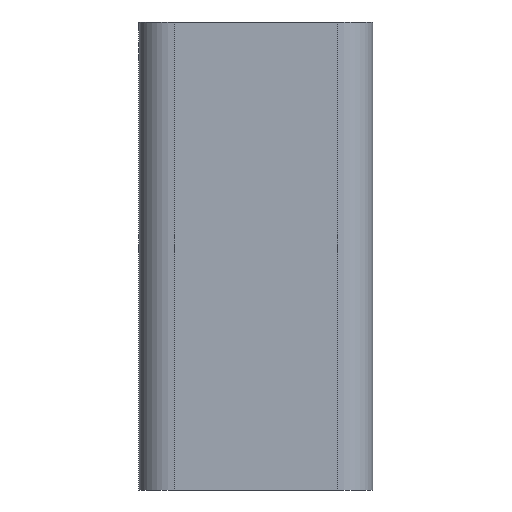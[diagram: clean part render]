
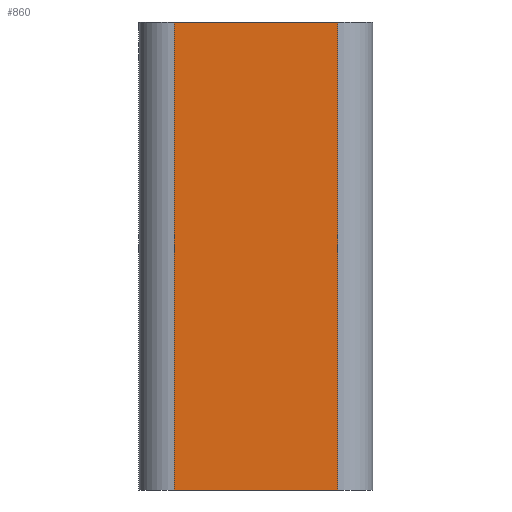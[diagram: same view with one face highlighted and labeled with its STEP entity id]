
A CAD part, front view. The second image highlights one B-rep face of the part: STEP entity #860.
In plain terms, the highlighted planar face has unit normal (0, -1, 0).
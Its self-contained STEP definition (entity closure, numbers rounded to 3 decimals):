
#142=FACE_OUTER_BOUND('',#195,.T.);
#195=EDGE_LOOP('',(#754,#755,#756,#757));
#266=LINE('',#1716,#336);
#268=LINE('',#1724,#338);
#270=LINE('',#1730,#340);
#271=LINE('',#1731,#341);
#336=VECTOR('',#1122,10.);
#338=VECTOR('',#1132,10.);
#340=VECTOR('',#1138,10.);
#341=VECTOR('',#1139,10.);
#417=VERTEX_POINT('',#1713);
#418=VERTEX_POINT('',#1715);
#420=VERTEX_POINT('',#1723);
#422=VERTEX_POINT('',#1729);
#534=EDGE_CURVE('',#417,#418,#266,.T.);
#538=EDGE_CURVE('',#418,#420,#268,.T.);
#541=EDGE_CURVE('',#422,#417,#270,.T.);
#542=EDGE_CURVE('',#420,#422,#271,.T.);
#754=ORIENTED_EDGE('',*,*,#538,.F.);
#755=ORIENTED_EDGE('',*,*,#534,.F.);
#756=ORIENTED_EDGE('',*,*,#541,.F.);
#757=ORIENTED_EDGE('',*,*,#542,.F.);
#814=PLANE('',#941);
#860=ADVANCED_FACE('',(#142),#814,.T.);
#941=AXIS2_PLACEMENT_3D('',#1728,#1136,#1137);
#1122=DIRECTION('',(1.,0.,0.));
#1132=DIRECTION('',(0.,0.,-1.));
#1136=DIRECTION('center_axis',(0.,-1.,0.));
#1137=DIRECTION('ref_axis',(1.,0.,0.));
#1138=DIRECTION('',(0.,0.,1.));
#1139=DIRECTION('',(-1.,0.,0.));
#1713=CARTESIAN_POINT('',(6.,-40.,80.));
#1715=CARTESIAN_POINT('',(34.,-40.,80.));
#1716=CARTESIAN_POINT('',(40.,-40.,80.));
#1723=CARTESIAN_POINT('',(34.,-40.,0.));
#1724=CARTESIAN_POINT('',(34.,-40.,0.));
#1728=CARTESIAN_POINT('Origin',(0.,-40.,0.));
#1729=CARTESIAN_POINT('',(6.,-40.,0.));
#1730=CARTESIAN_POINT('',(6.,-40.,0.));
#1731=CARTESIAN_POINT('',(40.,-40.,0.));
